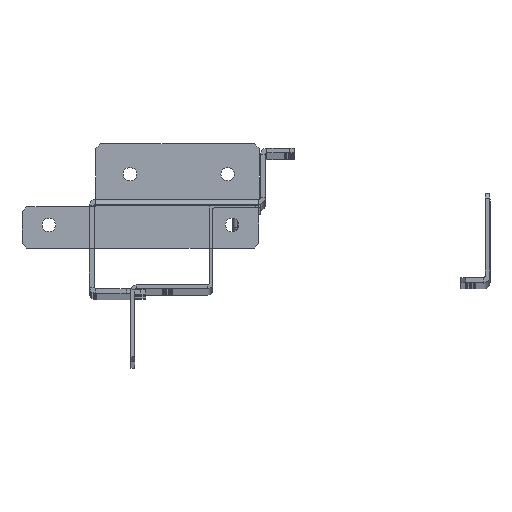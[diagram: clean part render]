
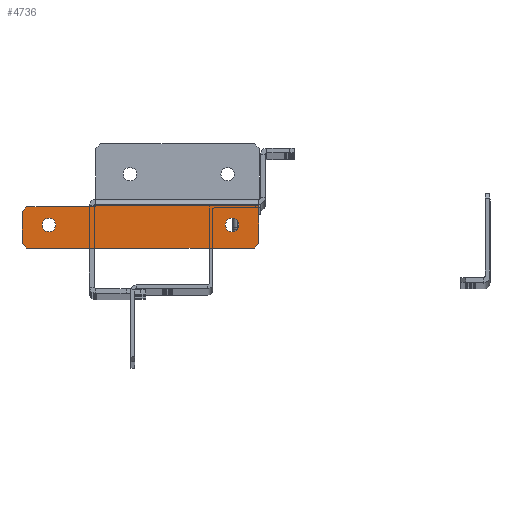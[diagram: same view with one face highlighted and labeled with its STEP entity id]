
A CAD part, top view. The second image highlights one B-rep face of the part: STEP entity #4736.
In plain terms, the highlighted planar face has unit normal (0, 0, 1).
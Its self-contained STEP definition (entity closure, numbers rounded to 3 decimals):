
#1951=CARTESIAN_POINT(' ',(-81.4,-21.6,772.7));
#1952=VERTEX_POINT(' ',#1951);
#1966=CARTESIAN_POINT(' ',(-81.4,-21.6,772.7));
#1971=DIRECTION(' ',(1.,0.,0.));
#1976=VECTOR(' ',#1971,1.);
#1981=LINE('',#1966,#1976);
#1986=CARTESIAN_POINT(' ',(-14.6,-21.6,772.7));
#1987=VERTEX_POINT(' ',#1986);
#1991=EDGE_CURVE(' ',#1952,#1987,#1981,.T.);
#4206=CARTESIAN_POINT(' ',(-81.4,-22.,772.7));
#4207=VERTEX_POINT(' ',#4206);
#4221=CARTESIAN_POINT(' ',(-81.4,-21.6,772.7));
#4226=DIRECTION(' ',(0.,-1.,0.));
#4231=VECTOR(' ',#4226,1.);
#4236=LINE('',#4221,#4231);
#4241=EDGE_CURVE(' ',#1952,#4207,#4236,.T.);
#4271=DIRECTION(' ',(0.,0.,1.));
#4276=CARTESIAN_POINT(' ',(-111.6,-39.,772.7));
#4281=DIRECTION(' ',(1.,0.,0.));
#4286=AXIS2_PLACEMENT_3D(' ',#4276,#4271,#4281);
#4291=PLANE('NONE',#4286);
#4296=CARTESIAN_POINT(' ',(-81.4,-22.,772.7));
#4301=DIRECTION(' ',(-1.,0.,0.));
#4306=VECTOR(' ',#4301,1.);
#4311=LINE('',#4296,#4306);
#4316=CARTESIAN_POINT(' ',(-109.6,-22.,772.7));
#4317=VERTEX_POINT(' ',#4316);
#4321=EDGE_CURVE(' ',#4207,#4317,#4311,.T.);
#4326=ORIENTED_EDGE(' ',*,*,#4321,.T.);
#4331=CARTESIAN_POINT(' ',(-109.6,-22.,772.7));
#4336=DIRECTION(' ',(-0.707,-0.707,0.));
#4341=VECTOR(' ',#4336,1.);
#4346=LINE('',#4331,#4341);
#4351=CARTESIAN_POINT(' ',(-111.6,-24.,772.7));
#4352=VERTEX_POINT(' ',#4351);
#4356=EDGE_CURVE(' ',#4317,#4352,#4346,.T.);
#4361=ORIENTED_EDGE(' ',*,*,#4356,.T.);
#4366=CARTESIAN_POINT(' ',(-111.6,-24.,772.7));
#4371=DIRECTION(' ',(0.,-1.,0.));
#4376=VECTOR(' ',#4371,1.);
#4381=LINE('',#4366,#4376);
#4386=CARTESIAN_POINT(' ',(-111.6,-37.,772.7));
#4387=VERTEX_POINT(' ',#4386);
#4391=EDGE_CURVE(' ',#4352,#4387,#4381,.T.);
#4396=ORIENTED_EDGE(' ',*,*,#4391,.T.);
#4401=CARTESIAN_POINT(' ',(-111.6,-37.,772.7));
#4406=DIRECTION(' ',(0.707,-0.707,0.));
#4411=VECTOR(' ',#4406,1.);
#4416=LINE('',#4401,#4411);
#4421=CARTESIAN_POINT(' ',(-109.6,-39.,772.7));
#4422=VERTEX_POINT(' ',#4421);
#4426=EDGE_CURVE(' ',#4387,#4422,#4416,.T.);
#4431=ORIENTED_EDGE(' ',*,*,#4426,.T.);
#4436=CARTESIAN_POINT(' ',(-109.6,-39.,772.7));
#4441=DIRECTION(' ',(1.,0.,0.));
#4446=VECTOR(' ',#4441,1.);
#4451=LINE('',#4436,#4446);
#4456=CARTESIAN_POINT(' ',(-16.6,-39.,772.7));
#4457=VERTEX_POINT(' ',#4456);
#4461=EDGE_CURVE(' ',#4422,#4457,#4451,.T.);
#4466=ORIENTED_EDGE(' ',*,*,#4461,.T.);
#4471=CARTESIAN_POINT(' ',(-16.6,-39.,772.7));
#4476=DIRECTION(' ',(0.707,0.707,0.));
#4481=VECTOR(' ',#4476,1.);
#4486=LINE('',#4471,#4481);
#4491=CARTESIAN_POINT(' ',(-14.6,-37.,772.7));
#4492=VERTEX_POINT(' ',#4491);
#4496=EDGE_CURVE(' ',#4457,#4492,#4486,.T.);
#4501=ORIENTED_EDGE(' ',*,*,#4496,.T.);
#4506=CARTESIAN_POINT(' ',(-14.6,-37.,772.7));
#4511=DIRECTION(' ',(0.,1.,0.));
#4516=VECTOR(' ',#4511,1.);
#4521=LINE('',#4506,#4516);
#4526=EDGE_CURVE(' ',#4492,#1987,#4521,.T.);
#4531=ORIENTED_EDGE(' ',*,*,#4526,.T.);
#4536=ORIENTED_EDGE(' ',*,*,#1991,.F.);
#4541=ORIENTED_EDGE(' ',*,*,#4241,.T.);
#4546=EDGE_LOOP(' ',(#4326,#4361,#4396,#4431,#4466,#4501,#4531,#4536,#4541));
#4551=FACE_OUTER_BOUND(' ',#4546,.T.);
#4556=CARTESIAN_POINT(' ',(-25.6,-29.5,772.7));
#4561=DIRECTION(' ',(0.,0.,1.));
#4566=DIRECTION(' ',(1.,0.,0.));
#4571=AXIS2_PLACEMENT_3D(' ',#4556,#4561,#4566);
#4576=CIRCLE('',#4571,2.75);
#4581=CARTESIAN_POINT(' ',(-22.85,-29.5,772.7));
#4582=VERTEX_POINT(' ',#4581);
#4586=CARTESIAN_POINT(' ',(-28.35,-29.5,772.7));
#4587=VERTEX_POINT(' ',#4586);
#4591=EDGE_CURVE(' ',#4582,#4587,#4576,.T.);
#4596=ORIENTED_EDGE(' ',*,*,#4591,.F.);
#4601=CARTESIAN_POINT(' ',(-25.6,-29.5,772.7));
#4606=DIRECTION(' ',(0.,-0.,1.));
#4611=DIRECTION(' ',(-1.,0.,0.));
#4616=AXIS2_PLACEMENT_3D(' ',#4601,#4606,#4611);
#4621=CIRCLE('',#4616,2.75);
#4626=EDGE_CURVE(' ',#4587,#4582,#4621,.T.);
#4631=ORIENTED_EDGE(' ',*,*,#4626,.F.);
#4636=EDGE_LOOP(' ',(#4596,#4631));
#4641=FACE_BOUND(' ',#4636,.T.);
#4646=CARTESIAN_POINT(' ',(-100.6,-29.5,772.7));
#4651=DIRECTION(' ',(0.,0.,1.));
#4656=DIRECTION(' ',(1.,0.,0.));
#4661=AXIS2_PLACEMENT_3D(' ',#4646,#4651,#4656);
#4666=CIRCLE('',#4661,2.75);
#4671=CARTESIAN_POINT(' ',(-97.85,-29.5,772.7));
#4672=VERTEX_POINT(' ',#4671);
#4676=CARTESIAN_POINT(' ',(-103.35,-29.5,772.7));
#4677=VERTEX_POINT(' ',#4676);
#4681=EDGE_CURVE(' ',#4672,#4677,#4666,.T.);
#4686=ORIENTED_EDGE(' ',*,*,#4681,.F.);
#4691=CARTESIAN_POINT(' ',(-100.6,-29.5,772.7));
#4696=DIRECTION(' ',(0.,0.,1.));
#4701=DIRECTION(' ',(-1.,0.,0.));
#4706=AXIS2_PLACEMENT_3D(' ',#4691,#4696,#4701);
#4711=CIRCLE('',#4706,2.75);
#4716=EDGE_CURVE(' ',#4677,#4672,#4711,.T.);
#4721=ORIENTED_EDGE(' ',*,*,#4716,.F.);
#4726=EDGE_LOOP(' ',(#4686,#4721));
#4731=FACE_BOUND(' ',#4726,.T.);
#4736=ADVANCED_FACE('NONE',(#4551,#4641,#4731),#4291,.T.);
